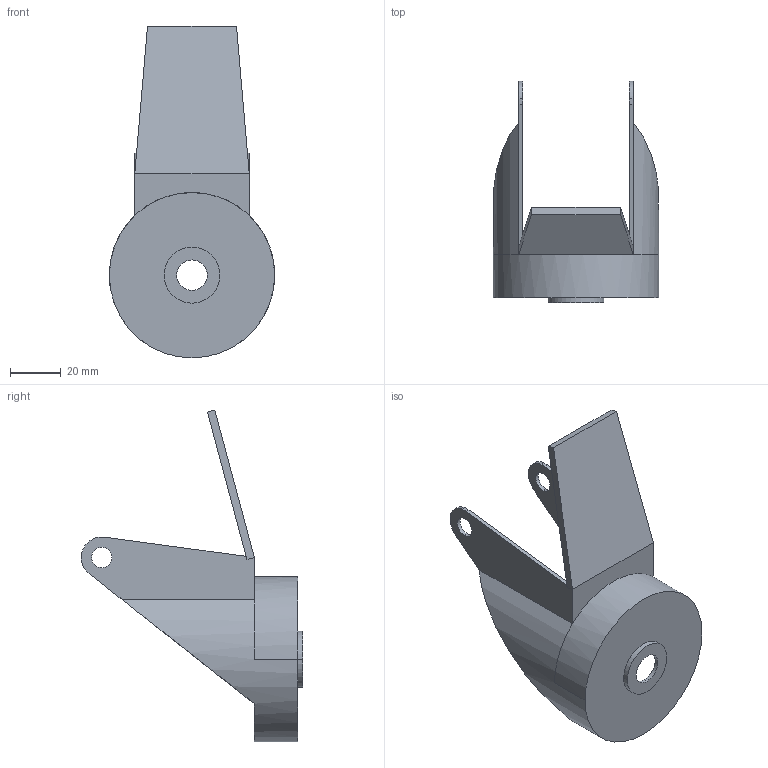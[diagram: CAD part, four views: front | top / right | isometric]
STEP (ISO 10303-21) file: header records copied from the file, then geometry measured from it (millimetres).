
FILE_DESCRIPTION((''),'2;1');
FILE_NAME('RUP100_3','2002-12-27T',('Lipro doo'),('Lipro d.o.o.'),'PRO/ENGINEER BY PARAMETRIC TECHNOLOGY CORPORATION, 2001150','PRO/ENGINEER BY PARAMETRIC TECHNOLOGY CORPORATION, 2001150','');
FILE_SCHEMA(('CONFIG_CONTROL_DESIGN'));
Length unit declared in the file: millimetre
Products named in the file (1): RUP100_3
Bounding box: 65 x 87.05 x 130.46 mm (x, y, z)
Volume: 24882.7 mm3; surface area: 29697.1 mm2
Topology: 1 solids, 1 shells, 41 faces, 106 edges, 69 vertices
Faces by surface type: plane 25, cylinder 16
Entity records: 1327 total; most frequent: CARTESIAN_POINT 250, DIRECTION 217, ORIENTED_EDGE 212, EDGE_CURVE 106, AXIS2_PLACEMENT_3D 76, VERTEX_POINT 69, VECTOR 65, LINE 65
